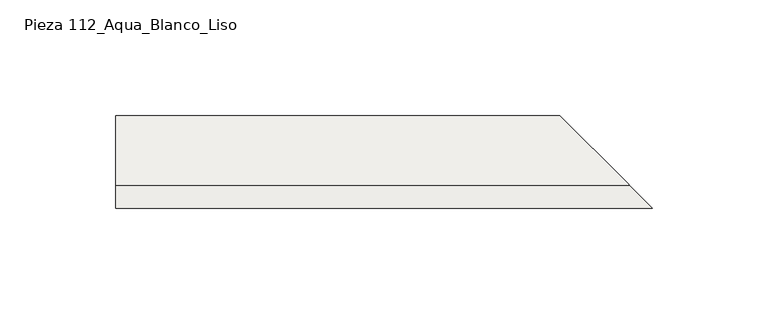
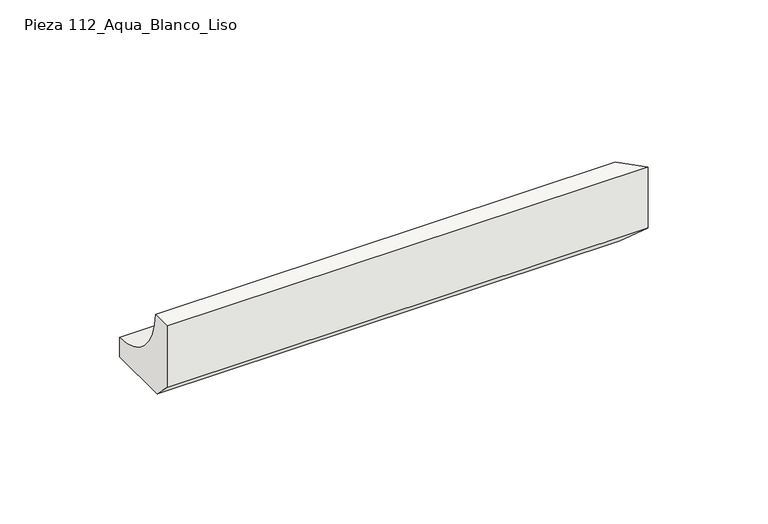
"""IFC4 building model written with IfcOpenShell, lengths in millimetres: slab geometry, ROSA GRES_112 (corte) : Pieza 112_Aqua_Blanco_Liso."""

from ifc_helpers import new_model, si_unit, frame, origin, place, context, project, spatial, polyline, circle_curve, ellipse_curve, source, transform, mapped, element, save
from ifc_brep_helpers import plane_surface, revolved_surface, advanced_brep


def pieza_112_aqua_blanco_liso_01280c05(model_context):
    return source(origin(), model_context, "Body", "AdvancedBrep", [
        advanced_brep(
        [(0.0, 0.0, 8.7114978), (0.0, 0.0, 40.0), (0.0, 9.9734114, 40.0), (0.0, 40.0, 9.9734114), (0.0, 40.0, 0.0), (0.0, 8.7114978, 0.0), (232.2, 0.0, 8.7114978), (232.2, 0.0, 40.0), (222.2265886, 9.9734114, 40.0), (192.2, 40.0, 9.9734114), (192.2, 40.0, 0.0), (223.4885022, 8.7114978, 0.0)],
        [
            (0, 1),
            (1, 2),
            (2, 3, circle_curve(frame((0.0, 39.9955547, 39.9955547), z_axis=(1.0, 0.0, 0.0), x_axis=(0.0, 1.0, 0.0)), 30.0221435)),
            (3, 4),
            (4, 5),
            (5, 0),
            (0, 6),
            (6, 7),
            (7, 1),
            (7, 8),
            (8, 2),
            (8, 9, ellipse_curve(frame((192.2044453, 39.9955547, 39.9955547), z_axis=(0.7071067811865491, 0.707106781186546, 0.0), x_axis=(0.7071067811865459, -0.7071067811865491, 0.0)), 42.4577226, 30.0221435)),
            (9, 3),
            (9, 10),
            (10, 4),
            (10, 11),
            (11, 5),
            (11, 6),
        ],
        [
            plane_surface(frame((0.0, 0.0, 0.0), z_axis=(-1.0, 0.0, 0.0), x_axis=(0.0, 0.0, 1.0))),
            plane_surface(frame((0.0, 0.0, 8.7114978), z_axis=(0.0, -1.0, 0.0), x_axis=(1.0, 0.0, 0.0))),
            plane_surface(frame((0.0, 0.0, 40.0), z_axis=(0.0, 0.0, 1.0), x_axis=(1.0, 0.0, 0.0))),
            revolved_surface(polyline([(222.22658886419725, 70.0176982, 39.9955547), (0.0, 70.0176982, 39.9955547)]), (0.0, 39.9955547, 39.9955547), (1.0, 0.0, 0.0)),
            plane_surface(frame((0.0, 40.0, 9.9734114), z_axis=(0.0, 1.0, 0.0), x_axis=(1.0, 0.0, 0.0))),
            plane_surface(frame((0.0, 40.0, 0.0), z_axis=(0.0, 0.0, -1.0), x_axis=(1.0, 0.0, 0.0))),
            plane_surface(frame((0.0, 8.7114978, 0.0), z_axis=(0.0, -0.7071067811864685, -0.7071067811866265), x_axis=(1.0, 0.0, 0.0))),
            plane_surface(frame((191.7, 40.5, 104.9871832), z_axis=(0.7071067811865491, 0.707106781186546, 0.0), x_axis=(0.0, 0.0, -1.0))),
        ],
        [
            (0, [[1, 2, 3, 4, 5, 6]]),
            (1, [[-1, 7, 8, 9]]),
            (2, [[-2, -9, 10, 11]]),
            (3, [[-3, -11, 12, 13]]),
            (4, [[-4, -13, 14, 15]]),
            (5, [[-5, -15, 16, 17]]),
            (6, [[-6, -17, 18, -7]]),
            (7, [[-8, -18, -16, -14, -12, -10]]),
        ],
    ),
    ])


if __name__ == "__main__":
    model = new_model("IFC4")
    model_context = context("Model", 3, world=origin())
    ifc_project = project(units=[si_unit("LENGTHUNIT", "METRE", prefix="MILLI")], contexts=[model_context])
    site = spatial("IfcSite", under=ifc_project)
    building = spatial("IfcBuilding", under=site)
    placement = place(None, origin())
    pieza_112_aqua_blanco_liso_shape = pieza_112_aqua_blanco_liso_01280c05(model_context)
    element("IfcSlab", 1, ObjectType="ROSA GRES_112 (corte) : Pieza 112_Aqua_Blanco_Liso", at=placement, inside=building, context=model_context, shape_type="MappedRepresentation", body=[
        mapped(pieza_112_aqua_blanco_liso_shape, transform((0.0, 0.0, 0.0), x_axis=(1.0, 0.0, 0.0), y_axis=(0.0, 1.0, 0.0), z_axis=(0.0, 0.0, 1.0))),
    ])
    save(model, "model.ifc")
